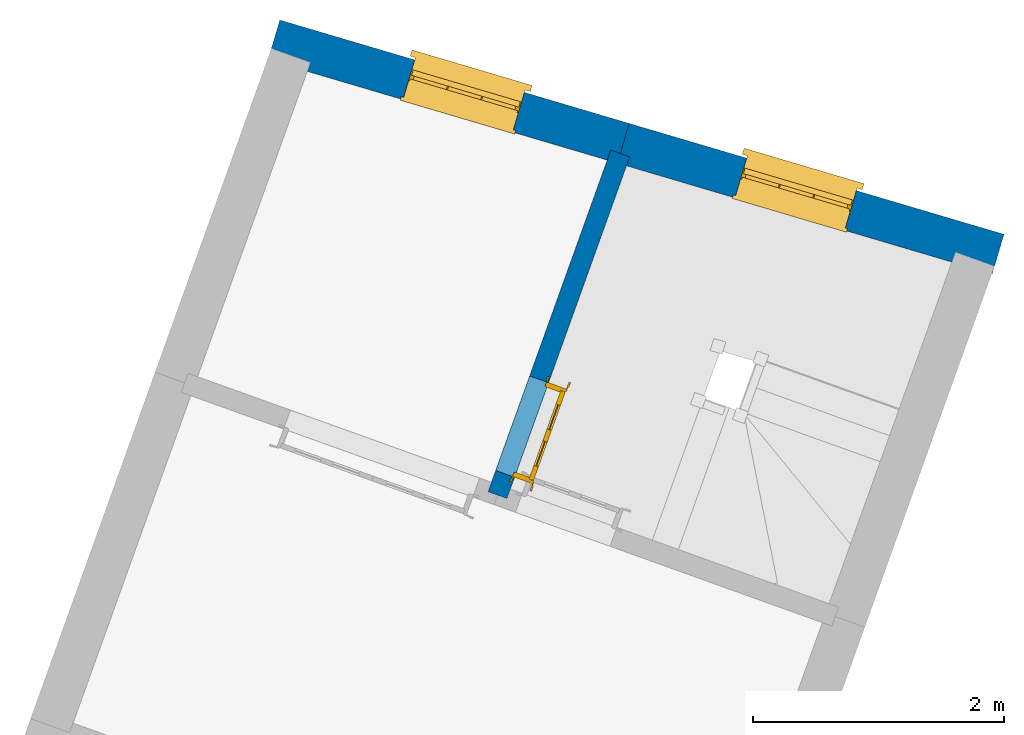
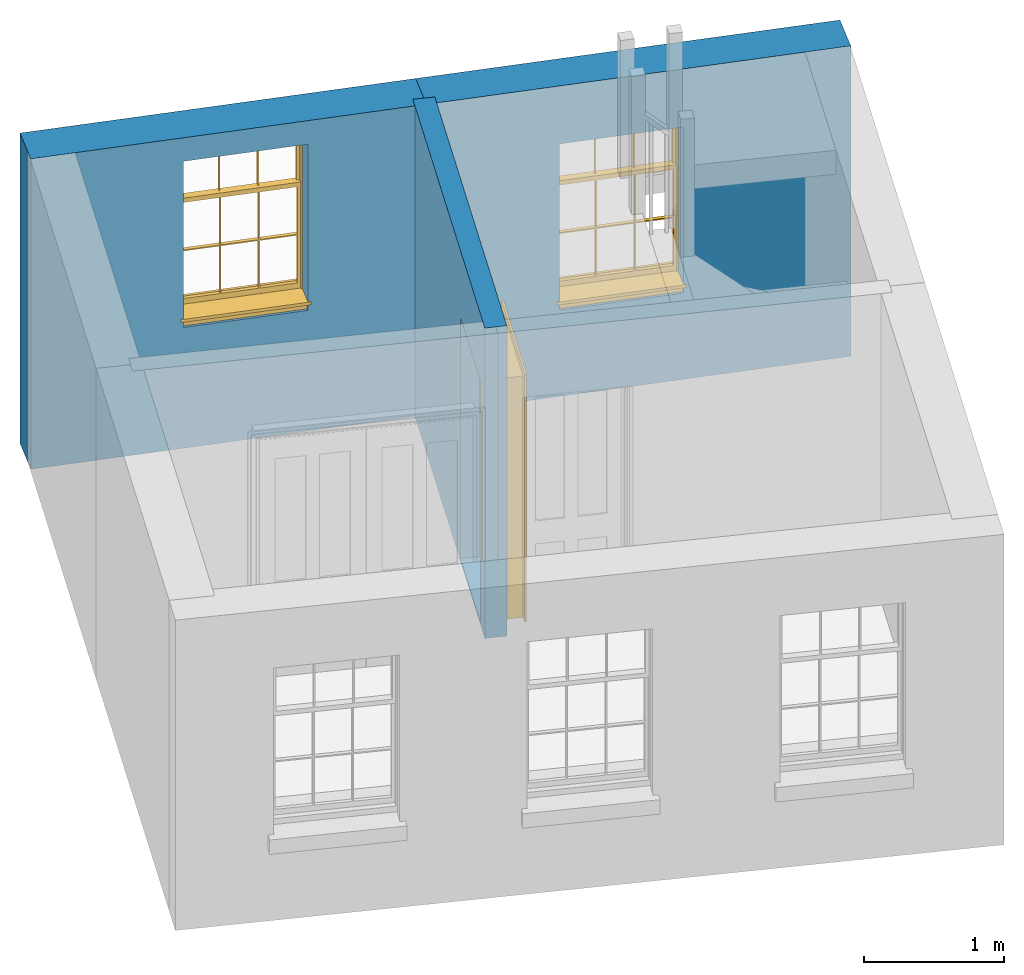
# One storey, part 3 of 4: 3 walls, 2 windows, 1 door, 3 openings.
"""IFC4 building model written with IfcOpenShell, lengths in metres."""

from ifc_helpers import new_model, si_unit, frame, origin, origin_with_axes, place, context, subcontext, project, spatial, polyline, outline, extrude, faceted_brep, source, transform, mapped, material, layer, layer_set, layer_usage, type_object, type_shapes, element, fill, save


model = new_model("IFC4")

# Units and contexts
model_context = context("Model", 3, world=origin_with_axes())
body_context = subcontext(model_context, "Body", "Model", "MODEL_VIEW")
ifc_project = project(units=[si_unit("PLANEANGLEUNIT", "RADIAN"), si_unit("MASSUNIT", "GRAM", prefix="KILO"), si_unit("FORCEUNIT", "NEWTON", prefix="KILO"), si_unit("LENGTHUNIT", "METRE"), si_unit("AREAUNIT", "SQUARE_METRE"), si_unit("VOLUMEUNIT", "CUBIC_METRE")], contexts=[model_context, model_context])

# Sites, building, storey
site_1_placement = place(None, origin_with_axes())
site_1 = spatial("IfcSite", under=ifc_project, at=site_1_placement, Name="Tamar")
site_2_placement = place(site_1_placement, origin_with_axes())
site_2 = spatial("IfcSite", under=site_1, at=site_2_placement, Name="Site plot-24", CompositionType="ELEMENT")
building_placement = place(None, origin_with_axes())
building = spatial("IfcBuilding", under=site_2, at=building_placement, Name="Building plot-24", CompositionType="ELEMENT")
storey_placement = place(None, frame((0.0, 0.0, 29.3), z_axis=(0.0, 0.0, 1.0), x_axis=(1.0, 0.0, 0.0)))
storey = spatial("IfcBuildingStorey", under=building, at=storey_placement, Name="plot-24 1", CompositionType="ELEMENT", Elevation=29.3)

# Wall, opening, window
ifc_material_1 = material(Name="Masonry")
ifc_layer_1 = layer(ifc_material_1, 0.33, ventilated=False)
ifc_layer_set_1 = layer_set([ifc_layer_1], Name="exterior_0.08_0.25")
ifc_layer_usage_1 = layer_usage(ifc_layer_set_1, "AXIS2", "POSITIVE", -0.25)
wall_type_1 = type_object("IfcWallType", Name="exterior_0.08_0.25", PredefinedType="SOLIDWALL", material=ifc_layer_set_1)
wall_1_placement = place(storey_placement, frame((276.213329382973, 278.988640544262, 0.0), z_axis=(0.0, 0.0, 1.0), x_axis=(-0.958899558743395, 0.283745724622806, 0.0)))
wall_1 = element("IfcWall", 1, at=wall_1_placement, inside=storey, type_object=wall_type_1, material=ifc_layer_usage_1, Name="exterior", context=body_context, shape_type="SweptSolid", body=[
    extrude(outline(polyline([(-0.250000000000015, 0.0800000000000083), (-0.250000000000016, -0.250000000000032), (2.85983964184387, -0.250000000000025), (2.85983964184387, 0.0800000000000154), (-0.250000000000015, 0.0800000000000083)])), origin_with_axes(), (0.0, 0.0, 1.0), 2.7),
])
opening_1_placement = place(wall_1_placement, frame((0.974919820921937, 0.0, 0.75)))
opening_1 = element("IfcOpeningElement", 2, at=opening_1_placement, cuts=wall_1, Name="My Opening", ObjectType="Opening", context=body_context, shape_type="SweptSolid", body=[
    extrude(outline(polyline([(0.0, -0.270000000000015), (0.910000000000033, -0.269999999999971), (0.910000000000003, 1.09999999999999), (-3.03090885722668e-14, 1.09999999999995), (0.0, -0.270000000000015)])), origin_with_axes(), (0.0, 0.0, 1.0), 1.445),
])
window_type = type_object("IfcWindowType", Name="sash_shorter", PartitioningType="DOUBLE_PANEL_HORIZONTAL", PredefinedType="NOTDEFINED")
shared_shape_1 = source(origin(), body_context, "Body", "Brep", [
    faceted_brep([(0.876875, 0.145, 0.999097), (0.876875, 0.145, 1.411875), (0.9, 0.145, 1.435), (0.033125, 0.145, 1.411875), (0.033125, 0.145, 0.999097), (0.01, 0.145, 1.435), (0.033125, 0.115, 1.411875), (0.01, 0.115, 1.435), (0.033125, 0.115, 0.999097), (0.876875, 0.115, 1.411875), (0.876875, 0.115, 0.999097), (0.9, 0.115, 1.435), (0.033125, 0.145, 0.960972), (0.01, 0.145, 0.960972), (0.033125, 0.145, 0.548195), (0.876875, 0.145, 0.960972), (0.876875, 0.145, 0.548195), (0.9, 0.145, 0.960972), (0.876875, 0.145, 0.538195), (0.876875, 0.145, 0.125417), (0.9, 0.145, 0.077167), (0.033125, 0.145, 0.125417), (0.033125, 0.145, 0.538195), (0.01, 0.145, 0.077167), (0.9, 0.115, 0.960972), (0.01, 0.115, 0.960972), (-0.0425, 0.0, 0.01), (-0.0425, -0.05, 0.001667), (0.0, 0.0, 0.01), (0.9525, 0.0, 0.01), (0.91, 0.0, 0.01), (0.9525, -0.05, 0.001667), (-0.02, 0.33, 0.077167), (0.0, 0.33, 0.077167), (-0.02, 0.36, 0.077167), (0.0, 0.19, 0.077167), (0.01, 0.19, 0.077167), (0.91, 0.19, 0.077167), (0.91, 0.33, 0.077167), (0.9, 0.19, 0.077167), (0.93, 0.33, 0.077167), (0.93, 0.36, 0.077167), (0.01, 0.145, 0.999097), (0.01, 0.175, 0.999097), (0.9, 0.145, 0.999097), (0.9, 0.175, 0.999097), (0.876875, 0.175, 0.125417), (0.876875, 0.175, 0.538195), (0.9, 0.175, 0.077167), (0.876875, 0.175, 0.548195), (0.876875, 0.175, 0.960972), (0.033125, 0.175, 0.125417), (0.01, 0.175, 0.077167), (0.033125, 0.175, 0.538195), (0.033125, 0.175, 0.960972), (0.033125, 0.175, 0.548195), (-0.02, 0.33, 0.052167), (-0.02, 0.36, 0.052167), (0.93, 0.36, 0.052167), (0.93, 0.33, 0.052167), (0.91, 0.33, 0.052167), (0.0, 0.33, 0.052167), (0.91, 0.1, 0.026667), (0.0, 0.1, 0.026667), (-0.0425, -0.05, -0.123333), (0.9525, -0.05, -0.123333), (-0.0425, 0.0, -0.123333), (0.9525, 0.0, -0.123333), (0.01, 0.19, 1.435), (0.9, 0.19, 1.435), (0.0, 0.19, 1.445), (0.91, 0.19, 1.445), (0.01, 0.1, 0.077167), (0.9, 0.1, 0.077167), (0.592292, 0.145, 0.125417), (0.592292, 0.175, 0.125417), (0.317708, 0.175, 0.125417), (0.317708, 0.145, 0.125417), (0.592292, 0.145, 0.548195), (0.317708, 0.145, 0.548195), (0.317708, 0.145, 0.538195), (0.592292, 0.145, 0.538195), (0.592292, 0.175, 0.548195), (0.317708, 0.175, 0.548195), (0.602292, 0.175, 0.548195), (0.602292, 0.145, 0.548195), (0.317708, 0.175, 0.538195), (0.307708, 0.175, 0.125417), (0.307708, 0.175, 0.538195), (0.602292, 0.175, 0.538195), (0.602292, 0.175, 0.125417), (0.592292, 0.175, 0.538195), (0.307708, 0.175, 0.548195), (0.317708, 0.175, 0.960972), (0.307708, 0.175, 0.960972), (0.602292, 0.175, 0.960972), (0.592292, 0.175, 0.960972), (0.307708, 0.145, 0.538195), (0.307708, 0.145, 0.125417), (0.307708, 0.145, 0.548195), (0.307708, 0.145, 0.960972), (0.592292, 0.145, 0.960972), (0.317708, 0.145, 0.960972), (0.602292, 0.145, 0.960972), (0.602292, 0.145, 0.538195), (0.602292, 0.145, 0.125417), (0.317708, 0.115, 1.411875), (0.307708, 0.115, 1.411875), (0.307708, 0.115, 0.999097), (0.317708, 0.115, 0.999097), (0.602292, 0.115, 1.411875), (0.592292, 0.115, 1.411875), (0.592292, 0.115, 0.999097), (0.602292, 0.115, 0.999097), (0.317708, 0.145, 0.999097), (0.307708, 0.145, 0.999097), (0.307708, 0.145, 1.411875), (0.317708, 0.145, 1.411875), (0.602292, 0.145, 0.999097), (0.592292, 0.145, 0.999097), (0.592292, 0.145, 1.411875), (0.602292, 0.145, 1.411875), (0.91, 0.1, 1.445), (0.9, 0.1, 1.435), (0.01, 0.1, 1.435), (0.0, 0.1, 1.445), (0.91, 0.0, 0.0), (0.0, 0.0, 0.0), (0.91, 0.33, 0.0), (0.0, 0.33, 0.0)], [[[0, 1, 2]], [[3, 4, 5]], [[6, 7, 8]], [[9, 10, 11]], [[12, 13, 14]], [[15, 16, 17]], [[18, 19, 20]], [[21, 22, 23]], [[24, 15, 17]], [[13, 12, 25]], [[26, 27, 28]], [[29, 30, 31]], [[32, 33, 34]], [[35, 36, 33]], [[37, 38, 39]], [[40, 41, 38]], [[42, 4, 43]], [[44, 45, 0]], [[46, 47, 48]], [[49, 50, 45]], [[51, 52, 53]], [[54, 55, 43]], [[38, 33, 36, 39]], [[41, 34, 33, 38]], [[56, 32, 34, 57]], [[57, 34, 41, 58]], [[58, 41, 40, 59]], [[57, 58, 60, 61]], [[52, 48, 39, 36]], [[62, 63, 28, 30]], [[27, 31, 30, 28]], [[27, 64, 65, 31]], [[66, 67, 65, 64]], [[2, 5, 68, 69]], [[68, 70, 71, 69]], [[20, 23, 72, 73]], [[73, 72, 63, 62]], [[74, 75, 76, 77]], [[78, 79, 80, 81]], [[78, 82, 83, 79]], [[16, 49, 84, 85]], [[86, 76, 87, 88]], [[89, 90, 75, 91]], [[92, 88, 53, 55]], [[82, 91, 86, 83]], [[93, 83, 92, 94]], [[95, 84, 82, 96]], [[89, 84, 49, 47]], [[97, 88, 87, 98]], [[22, 53, 88, 97]], [[81, 91, 75, 74]], [[80, 86, 91, 81]], [[77, 76, 86, 80]], [[99, 92, 55, 14]], [[100, 94, 92, 99]], [[101, 96, 82, 78]], [[79, 83, 93, 102]], [[85, 84, 95, 103]], [[104, 89, 47, 18]], [[105, 90, 89, 104]], [[104, 18, 16, 85]], [[80, 97, 98, 77]], [[104, 81, 74, 105]], [[103, 101, 78, 85]], [[99, 14, 22, 97]], [[102, 100, 99, 79]], [[106, 107, 108, 109]], [[110, 111, 112, 113]], [[114, 115, 116, 117]], [[118, 119, 120, 121]], [[107, 116, 115, 108]], [[111, 120, 119, 112]], [[109, 114, 117, 106]], [[113, 118, 121, 110]], [[85, 78, 81, 104]], [[84, 89, 91, 82]], [[83, 86, 88, 92]], [[79, 99, 97, 80]], [[109, 112, 119, 114]], [[102, 93, 96, 101]], [[106, 117, 120, 111]], [[98, 87, 51, 21]], [[6, 3, 116, 107]], [[110, 121, 1, 9]], [[19, 46, 90, 105]], [[26, 66, 64, 27]], [[29, 31, 65, 67]], [[25, 24, 112, 109]], [[11, 7, 106, 111]], [[75, 48, 52, 76]], [[43, 45, 96, 93]], [[45, 43, 114, 119]], [[5, 2, 120, 117]], [[24, 25, 102, 101]], [[42, 5, 4]], [[2, 44, 0]], [[49, 45, 48, 47]], [[52, 43, 55, 53]], [[14, 13, 23, 22]], [[20, 17, 16, 18]], [[24, 11, 10]], [[25, 8, 7]], [[8, 4, 3, 6]], [[9, 1, 0, 10]], [[15, 50, 49, 16]], [[18, 47, 46, 19]], [[21, 51, 53, 22]], [[14, 55, 54, 12]], [[44, 2, 69, 45]], [[68, 5, 42, 43]], [[36, 35, 70, 68]], [[39, 69, 71, 37]], [[62, 122, 123, 73]], [[63, 72, 124, 125]], [[8, 108, 115, 4]], [[113, 10, 0, 118]], [[94, 100, 12, 54]], [[17, 20, 73, 24]], [[72, 23, 13, 25]], [[52, 36, 68, 43]], [[69, 39, 48, 45]], [[11, 24, 73, 123]], [[7, 124, 72, 25]], [[23, 77, 98]], [[98, 21, 23]], [[105, 74, 20]], [[20, 19, 105]], [[20, 74, 77, 23]], [[113, 112, 24]], [[24, 10, 113]], [[25, 109, 108]], [[108, 8, 25]], [[110, 9, 11]], [[11, 111, 110]], [[7, 6, 107]], [[107, 106, 7]], [[5, 117, 116]], [[116, 3, 5]], [[121, 120, 2]], [[2, 1, 121]], [[11, 123, 124, 7]], [[122, 125, 124, 123]], [[43, 93, 94]], [[94, 54, 43]], [[96, 45, 95]], [[50, 95, 45]], [[15, 103, 95, 50]], [[48, 75, 90]], [[90, 46, 48]], [[87, 76, 52]], [[52, 51, 87]], [[103, 15, 24]], [[24, 101, 103]], [[100, 102, 25]], [[25, 12, 100]], [[115, 114, 43]], [[43, 4, 115]], [[118, 0, 45]], [[45, 119, 118]], [[71, 70, 125, 122]], [[70, 35, 63, 125]], [[122, 62, 37, 71]], [[126, 67, 66, 127]], [[60, 58, 59]], [[38, 60, 59, 40]], [[61, 56, 57]], [[32, 56, 61, 33]], [[61, 60, 128, 129]], [[62, 60, 38, 37]], [[126, 128, 60, 62]], [[33, 61, 63, 35]], [[61, 129, 127, 63]], [[128, 126, 127, 129]], [[28, 127, 66, 26]], [[63, 127, 28]], [[29, 67, 126, 30]], [[30, 126, 62]]]),
])
type_shapes(window_type, [shared_shape_1])
window_1_placement = place(storey_placement, frame((275.355090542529, 279.524172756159, 0.75), z_axis=(0.0, 0.0, 1.0), x_axis=(-0.872598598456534, 0.258208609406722, 0.0)))
window_1 = element("IfcWindow", 3, at=window_1_placement, inside=storey, type_object=window_type, Name="circulation outside window", OverallHeight=1.445, OverallWidth=0.91, context=body_context, shape_type="MappedRepresentation", body=[
    mapped(shared_shape_1, transform((0.0, 0.0, 0.0), scale=1.0)),
])
fill(opening_1, window_1)

wall_2_placement = place(storey_placement, frame((273.471030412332, 279.800107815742, 0.0), z_axis=(0.0, 0.0, 1.0), x_axis=(-0.958899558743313, 0.283745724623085, 0.0)))
wall_2 = element("IfcWall", 4, at=wall_2_placement, inside=storey, type_object=wall_type_1, material=ifc_layer_usage_1, Name="exterior", context=body_context, shape_type="SweptSolid", body=[
    extrude(outline(polyline([(-1.39927933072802e-14, 0.0800000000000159), (8.05064773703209e-14, -0.250000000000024), (2.8991914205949, -0.249999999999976), (2.89919142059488, 0.0800000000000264), (-1.39927933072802e-14, 0.0800000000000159)])), origin_with_axes(), (0.0, 0.0, 1.0), 2.7),
])
opening_2_placement = place(wall_2_placement, frame((0.869595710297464, 0.0, 1.05)))
opening_2 = element("IfcOpeningElement", 5, at=opening_2_placement, cuts=wall_2, Name="My Opening", ObjectType="Opening", context=body_context, shape_type="SweptSolid", body=[
    extrude(outline(polyline([(0.0, -0.269999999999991), (0.909999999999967, -0.270000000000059), (0.90999999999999, 1.09999999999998), (2.25375273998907e-14, 1.10000000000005), (0.0, -0.269999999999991)])), origin_with_axes(), (0.0, 0.0, 1.0), 1.445),
])
window_2_placement = place(storey_placement, frame((272.713786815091, 280.30575476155, 1.05), z_axis=(0.0, 0.0, 1.0), x_axis=(-0.872598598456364, 0.258208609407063, 0.0)))
window_2 = element("IfcWindow", 6, at=window_2_placement, inside=storey, type_object=window_type, Name="kitchen outside window", OverallHeight=1.445, OverallWidth=0.91, context=body_context, shape_type="MappedRepresentation", body=[
    mapped(shared_shape_1, transform((0.0, 0.0, 0.0), scale=1.0)),
])
fill(opening_2, window_2)

# Wall, opening, door
ifc_material_2 = material(Name="Masonry")
ifc_layer_2 = layer(ifc_material_2, 0.16, ventilated=False)
ifc_layer_set_2 = layer_set([ifc_layer_2], Name="interior_0.08_0.08")
ifc_layer_usage_2 = layer_usage(ifc_layer_set_2, "AXIS2", "POSITIVE", -0.08)
wall_type_2 = type_object("IfcWallType", Name="interior_0.08_0.08", PredefinedType="SOLIDWALL", material=ifc_layer_set_2)
wall_3_placement = place(storey_placement, frame((273.471030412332, 279.800107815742, 0.0), z_axis=(0.0, 0.0, 1.0), x_axis=(-0.338164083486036, -0.941087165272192, 0.0)))
wall_3 = element("IfcWall", 7, at=wall_3_placement, inside=storey, type_object=wall_type_2, material=ifc_layer_usage_2, Name="interior", context=body_context, shape_type="SweptSolid", body=[
    extrude(outline(polyline([(5.10121193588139e-15, 0.0799999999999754), (-5.07548197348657e-15, -0.0799999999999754), (2.88870883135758, -0.0799999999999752), (2.88870883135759, 0.0799999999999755), (5.10121193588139e-15, 0.0799999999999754)])), origin_with_axes(), (0.0, 0.0, 1.0), 2.7),
])
opening_3_placement = place(wall_3_placement, frame((1.90870883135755, 0.0, 0.0199999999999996)))
opening_3 = element("IfcOpeningElement", 8, at=opening_3_placement, cuts=wall_3, Name="My Opening", ObjectType="Opening", context=body_context, shape_type="SweptSolid", body=[
    extrude(outline(polyline([(0.0, -0.100000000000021), (0.800000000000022, -0.0999999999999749), (0.80000000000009, 1.10000000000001), (6.81676937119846e-14, 1.09999999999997), (0.0, -0.100000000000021)])), origin_with_axes(), (0.0, 0.0, 1.0), 2.1),
])
door_type = type_object("IfcDoorType", Name="door_inside", OperationType="SINGLE_SWING_LEFT", PredefinedType="NOTDEFINED")
shared_shape_2 = source(origin(), body_context, "Body", "Brep", [
    faceted_brep([(0.773, 0.33, 1.895), (0.66, 0.33, 1.895), (0.66, 0.33, 2.073), (0.773, 0.33, 2.073), (0.773, 0.33, 0.82), (0.66, 0.33, 0.82), (0.45, 0.33, 1.895), (0.45, 0.33, 2.073), (0.773, 0.33, 0.62), (0.66, 0.33, 0.62), (0.66, 0.315, 0.82), (0.66, 0.315, 1.895), (0.45, 0.315, 1.895), (0.35, 0.33, 1.895), (0.35, 0.33, 2.073), (0.773, 0.33, 0.225), (0.66, 0.33, 0.225), (0.45, 0.33, 0.62), (0.45, 0.33, 0.82), (0.45, 0.315, 0.82), (0.35, 0.33, 0.82), (0.14, 0.33, 2.073), (0.14, 0.33, 1.895), (0.773, 0.33, 0.0), (0.66, 0.33, 0.0), (0.66, 0.315, 0.225), (0.66, 0.315, 0.62), (0.45, 0.315, 0.62), (0.35, 0.33, 0.62), (0.35, 0.315, 0.82), (0.35, 0.315, 1.895), (0.14, 0.315, 1.895), (0.027, 0.33, 2.073), (0.027, 0.33, 1.895), (0.773, 0.292, 0.0), (0.66, 0.292, 0.0), (0.45, 0.33, 0.0), (0.45, 0.33, 0.225), (0.45, 0.315, 0.225), (0.35, 0.33, 0.225), (0.14, 0.33, 0.82), (0.14, 0.33, 0.62), (0.14, 0.315, 0.82), (0.027, 0.33, 0.82), (0.773, 0.292, 0.225), (0.66, 0.292, 0.225), (0.45, 0.292, 0.0), (0.35, 0.33, 0.0), (0.35, 0.315, 0.225), (0.35, 0.315, 0.62), (0.14, 0.315, 0.62), (0.027, 0.33, 0.62), (0.773, 0.292, 0.62), (0.66, 0.292, 0.62), (0.45, 0.292, 0.225), (0.35, 0.292, 0.0), (0.14, 0.33, 0.225), (0.14, 0.33, 0.0), (0.14, 0.315, 0.225), (0.027, 0.33, 0.225), (0.773, 0.292, 0.82), (0.66, 0.292, 0.82), (0.66, 0.307, 0.62), (0.66, 0.307, 0.225), (0.45, 0.307, 0.225), (0.35, 0.292, 0.225), (0.14, 0.292, 0.0), (0.027, 0.33, 0.0), (0.773, 0.292, 1.895), (0.66, 0.292, 1.895), (0.45, 0.292, 0.62), (0.45, 0.292, 0.82), (0.45, 0.307, 0.62), (0.35, 0.292, 0.62), (0.14, 0.292, 0.225), (0.027, 0.292, 0.0), (0.773, 0.292, 2.073), (0.66, 0.292, 2.073), (0.66, 0.307, 1.895), (0.66, 0.307, 0.82), (0.45, 0.307, 0.82), (0.35, 0.292, 0.82), (0.35, 0.307, 0.62), (0.35, 0.307, 0.225), (0.14, 0.307, 0.225), (0.027, 0.292, 0.225), (0.45, 0.292, 1.895), (0.45, 0.292, 2.073), (0.45, 0.307, 1.895), (0.35, 0.292, 1.895), (0.14, 0.292, 0.82), (0.14, 0.292, 0.62), (0.14, 0.307, 0.62), (0.027, 0.292, 0.62), (0.35, 0.292, 2.073), (0.35, 0.307, 1.895), (0.35, 0.307, 0.82), (0.14, 0.307, 0.82), (0.027, 0.292, 0.82), (0.14, 0.292, 2.073), (0.14, 0.292, 1.895), (0.14, 0.307, 1.895), (0.027, 0.292, 1.895), (0.027, 0.292, 2.073), (0.02, 0.335, 0.0), (0.005, 0.34, 0.0), (0.005, 0.34, 2.095), (0.02, 0.335, 2.08), (0.02, 0.33, 0.0), (0.0, 0.335, 0.0), (0.0, 0.335, 2.1), (0.795, 0.34, 2.095), (0.78, 0.335, 2.08), (0.02, 0.33, 2.08), (0.0, 0.33, 0.0), (-0.032, 0.345, 0.0), (-0.032, 0.345, 2.132), (0.8, 0.335, 2.1), (0.795, 0.34, 0.0), (0.78, 0.335, 0.0), (0.78, 0.33, 2.08), (0.04, 0.29, 0.0), (0.025, 0.29, 0.0), (0.025, 0.29, 2.075), (0.04, 0.29, 2.06), (-0.04, 0.34, 0.0), (-0.04, 0.34, 2.14), (0.832, 0.345, 2.132), (0.8, 0.335, 0.0), (0.78, 0.33, 0.0), (0.8, 0.33, 0.0), (0.86, 0.33, 0.0), (0.86, 0.33, 2.16), (0.8, 0.33, 2.1), (-0.06, 0.33, 2.16), (0.0, 0.33, 2.1), (-0.06, 0.33, 0.0), (-0.04, 0.345, 0.0), (-0.04, 0.345, 2.14), (0.84, 0.34, 2.14), (0.832, 0.345, 0.0), (0.84, 0.34, 0.0), (0.86, 0.345, 0.0), (0.86, 0.345, 2.16), (-0.06, 0.345, 2.16), (-0.06, 0.345, 0.0), (0.84, 0.345, 0.0), (0.84, 0.345, 2.14), (-0.025, 0.155, 0.0), (-0.025, 0.16, 0.0), (-0.025, 0.16, 2.125), (-0.025, 0.155, 2.125), (-0.017, 0.155, 0.0), (-0.017, 0.155, 2.117), (0.825, 0.16, 2.125), (0.825, 0.155, 2.125), (0.825, 0.155, 0.0), (0.845, 0.155, 0.0), (-0.045, 0.155, 2.145), (-0.045, 0.155, 0.0), (0.845, 0.155, 2.145), (0.015, 0.165, 0.0), (0.015, 0.165, 2.085), (0.817, 0.155, 2.117), (0.825, 0.16, 0.0), (0.845, 0.17, 0.0), (0.845, 0.17, 2.145), (-0.045, 0.17, 2.145), (-0.045, 0.17, 0.0), (0.02, 0.16, 0.0), (0.02, 0.16, 2.08), (0.785, 0.165, 2.085), (0.817, 0.155, 0.0), (0.8, 0.17, 0.0), (0.8, 0.17, 2.1), (0.0, 0.17, 2.1), (0.0, 0.17, 0.0), (0.035, 0.165, 0.0), (0.035, 0.165, 2.065), (0.78, 0.16, 2.08), (0.785, 0.165, 0.0), (0.775, 0.29, 2.075), (0.76, 0.29, 2.06), (0.035, 0.17, 2.065), (0.035, 0.17, 0.0), (0.765, 0.165, 2.065), (0.78, 0.16, 0.0), (0.765, 0.17, 0.0), (0.765, 0.17, 2.065), (0.765, 0.165, 0.0), (0.04, 0.17, 2.06), (0.04, 0.17, 0.0), (0.76, 0.17, 2.06), (0.76, 0.17, 0.0), (0.76, 0.29, 0.0), (0.775, 0.29, 0.0), (0.025, 0.33, 0.0), (0.025, 0.33, 2.075), (0.775, 0.33, 0.0), (0.775, 0.33, 2.075)], [[[0, 1, 2, 3]], [[1, 0, 4, 5]], [[1, 6, 7, 2]], [[8, 9, 5, 4]], [[1, 5, 10, 11]], [[6, 1, 11, 12]], [[6, 13, 14, 7]], [[15, 16, 9, 8]], [[9, 17, 18, 5]], [[5, 18, 19, 10]], [[10, 19, 12, 11]], [[18, 6, 12, 19]], [[18, 20, 13, 6]], [[21, 14, 13, 22]], [[23, 24, 16, 15]], [[9, 16, 25, 26]], [[17, 9, 26, 27]], [[17, 28, 20, 18]], [[13, 20, 29, 30]], [[22, 13, 30, 31]], [[32, 21, 22, 33]], [[34, 35, 24, 23]], [[24, 36, 37, 16]], [[16, 37, 38, 25]], [[25, 38, 27, 26]], [[37, 17, 27, 38]], [[37, 39, 28, 17]], [[40, 20, 28, 41]], [[20, 40, 42, 29]], [[31, 30, 29, 42]], [[40, 22, 31, 42]], [[33, 22, 40, 43]], [[35, 34, 44, 45]], [[35, 46, 36, 24]], [[36, 47, 39, 37]], [[28, 39, 48, 49]], [[41, 28, 49, 50]], [[43, 40, 41, 51]], [[45, 44, 52, 53]], [[46, 35, 45, 54]], [[46, 55, 47, 36]], [[56, 39, 47, 57]], [[39, 56, 58, 48]], [[50, 49, 48, 58]], [[56, 41, 50, 58]], [[51, 41, 56, 59]], [[53, 52, 60, 61]], [[45, 53, 62, 63]], [[54, 45, 63, 64]], [[55, 46, 54, 65]], [[55, 66, 57, 47]], [[59, 56, 57, 67]], [[61, 60, 68, 69]], [[70, 53, 61, 71]], [[53, 70, 72, 62]], [[72, 64, 63, 62]], [[70, 54, 64, 72]], [[65, 54, 70, 73]], [[65, 74, 66, 55]], [[67, 57, 66, 75]], [[69, 68, 76, 77]], [[61, 69, 78, 79]], [[71, 61, 79, 80]], [[73, 70, 71, 81]], [[65, 73, 82, 83]], [[74, 65, 83, 84]], [[74, 85, 75, 66]], [[86, 69, 77, 87]], [[69, 86, 88, 78]], [[88, 80, 79, 78]], [[86, 71, 80, 88]], [[81, 71, 86, 89]], [[73, 81, 90, 91]], [[73, 91, 92, 82]], [[83, 82, 92, 84]], [[91, 74, 84, 92]], [[91, 93, 85, 74]], [[89, 86, 87, 94]], [[81, 89, 95, 96]], [[90, 81, 96, 97]], [[90, 98, 93, 91]], [[94, 99, 100, 89]], [[89, 100, 101, 95]], [[101, 97, 96, 95]], [[100, 90, 97, 101]], [[100, 102, 98, 90]], [[99, 103, 102, 100]], [[32, 103, 99, 21]], [[102, 103, 32, 33]], [[98, 102, 33, 43]], [[21, 99, 94, 14]], [[94, 87, 7, 14]], [[7, 87, 77, 2]], [[76, 3, 2, 77]], [[43, 51, 93, 98]], [[51, 59, 85, 93]], [[67, 75, 85, 59]], [[34, 23, 15, 44]], [[44, 15, 8, 52]], [[52, 8, 4, 60]], [[0, 68, 60, 4]], [[0, 3, 76, 68]], [[104, 105, 106, 107]], [[104, 108, 109, 105]], [[105, 109, 110, 106]], [[107, 106, 111, 112]], [[107, 113, 108, 104]], [[114, 109, 108]], [[109, 115, 116, 110]], [[106, 110, 117, 111]], [[112, 111, 118, 119]], [[113, 107, 112, 120]], [[121, 122, 123, 124]], [[115, 109, 114, 125]], [[115, 125, 126, 116]], [[110, 116, 127, 117]], [[111, 117, 128, 118]], [[118, 128, 129, 119]], [[120, 112, 119, 129]], [[130, 129, 128]], [[130, 131, 132, 133]], [[133, 132, 134, 135]], [[135, 134, 136, 114]], [[136, 125, 114]], [[125, 137, 138, 126]], [[116, 126, 139, 127]], [[117, 127, 140, 128]], [[141, 130, 128, 140]], [[131, 130, 141]], [[131, 142, 143, 132]], [[132, 143, 144, 134]], [[134, 144, 145, 136]], [[137, 125, 136, 145]], [[143, 142, 146]], [[143, 146, 147]], [[137, 145, 144]], [[143, 147, 138]], [[138, 137, 144]], [[143, 138, 144]], [[126, 138, 147, 139]], [[127, 139, 141, 140]], [[142, 131, 141, 146]], [[139, 147, 146, 141]], [[148, 149, 150, 151]], [[149, 152, 153, 150]], [[151, 150, 154, 155]], [[155, 156, 157]], [[158, 159, 148]], [[158, 148, 151]], [[155, 157, 160]], [[158, 151, 155]], [[155, 160, 158]], [[152, 161, 162, 153]], [[150, 153, 163, 154]], [[155, 154, 164, 156]], [[156, 164, 165, 157]], [[157, 165, 166, 160]], [[160, 166, 167, 158]], [[158, 167, 168, 159]], [[161, 169, 170, 162]], [[153, 162, 171, 163]], [[154, 163, 172, 164]], [[165, 164, 173]], [[165, 173, 174, 166]], [[166, 174, 175, 167]], [[167, 175, 176, 168]], [[169, 177, 178, 170]], [[162, 170, 179, 171]], [[163, 171, 180, 172]], [[172, 180, 173, 164]], [[124, 123, 181, 182]], [[183, 178, 177, 184]], [[170, 178, 185, 179]], [[171, 179, 186, 180]], [[187, 173, 180]], [[185, 188, 187, 189]], [[188, 185, 178, 183]], [[179, 185, 189, 186]], [[189, 187, 180, 186]], [[190, 183, 184, 191]], [[192, 188, 183, 190]], [[191, 184, 122, 121]], [[124, 190, 191, 121]], [[193, 187, 188, 192]], [[182, 192, 190, 124]], [[184, 176, 122]], [[194, 195, 187, 193]], [[192, 182, 194, 193]], [[161, 176, 184]], [[114, 108, 122, 176]], [[173, 187, 195]], [[152, 149, 176, 161]], [[169, 161, 184, 177]], [[196, 122, 108]], [[176, 175, 135, 114]], [[173, 195, 129, 130]], [[176, 149, 168]], [[123, 122, 196, 197]], [[196, 108, 113, 197]], [[175, 174, 133, 135]], [[198, 129, 195]], [[133, 174, 173, 130]], [[159, 168, 149, 148]], [[181, 123, 197, 199]], [[197, 113, 120, 199]], [[199, 120, 129, 198]], [[195, 181, 199, 198]], [[195, 194, 182, 181]]]),
])
type_shapes(door_type, [shared_shape_2])
door_placement = place(storey_placement, frame((272.731464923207, 278.037662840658, 0.0199999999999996), z_axis=(0.0, 0.0, 1.0), x_axis=(-0.270531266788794, -0.752869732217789, 0.0)))
door = element("IfcDoor", 9, at=door_placement, inside=storey, type_object=door_type, Name="kitchen inside door", OverallHeight=2.1, OverallWidth=0.8, context=body_context, shape_type="MappedRepresentation", body=[
    mapped(shared_shape_2, transform((0.0, 0.0, 0.0), scale=1.0)),
])
fill(opening_3, door)

save(model, "model.ifc")
